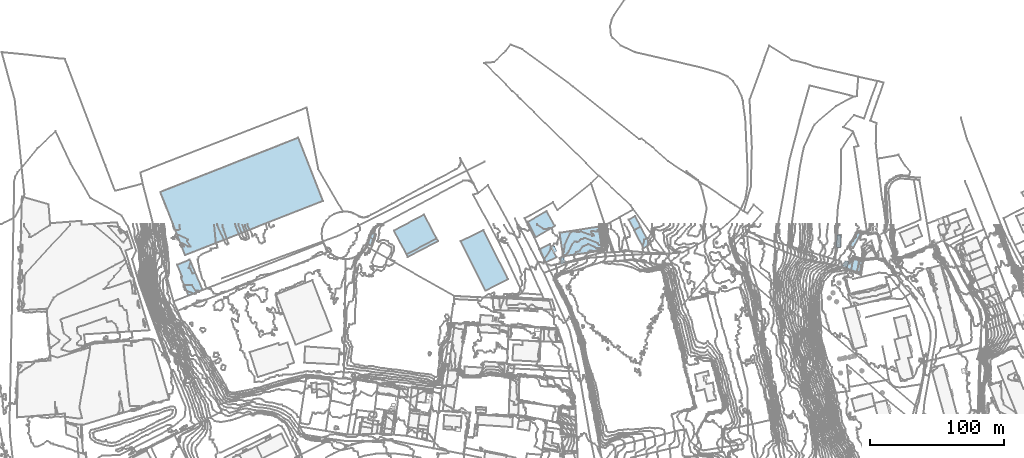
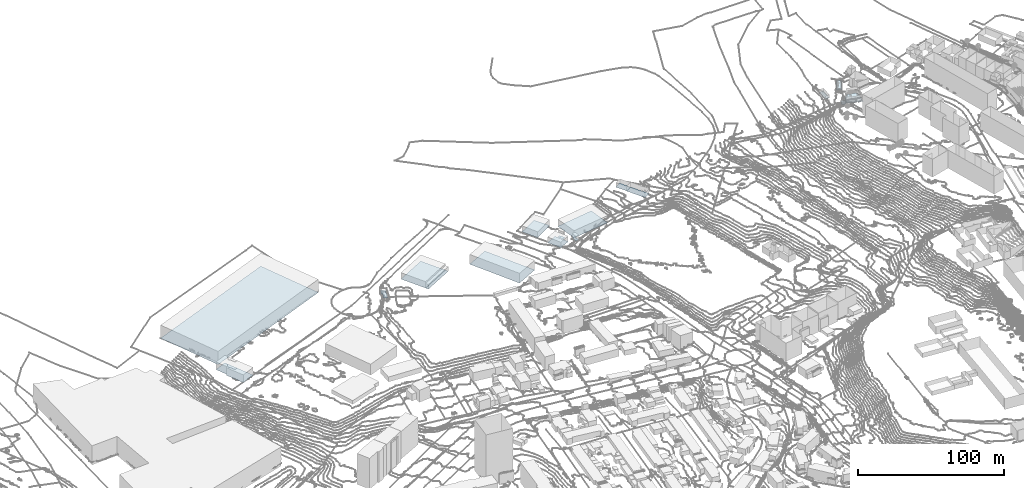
# Not in any storey, part 23 of 419: 18 footings.
"""IFC2X3 model written with IfcOpenShell, lengths in metres."""

from ifc_helpers import new_model, si_unit, frame, origin_with_axes, place, context, subcontext, project, faceted_brep, element, save


model = new_model("IFC2X3")

# Units and contexts
model_context = context("Model", 3, precision=1e-05, world=origin_with_axes())
body_context = subcontext(model_context, "Body", "Model", "MODEL_VIEW")
ifc_project = project(units=[si_unit("AREAUNIT", "SQUARE_METRE"), si_unit("LENGTHUNIT", "METRE")], contexts=[model_context])

# Footings
footing_1_placement = place(None, frame((662.4920204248, 1027.9976909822, 61.445799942), z_axis=(0.0, 0.0, 1.0), x_axis=(1.0, 0.0, 0.0)))
element("IfcFooting", 1, at=footing_1_placement, Name="Sol 0", PredefinedType="STRIP_FOOTING", context=body_context, shape_type="Brep", body=[
    faceted_brep([(0.0, 0.0, 0.0), (4.7999999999, 2.6000000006, 0.0), (12.0, -10.5, 0.0), (7.1, -13.3999999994, 0.0)], [[[0, 1, 2]], [[2, 3, 0]]]),
])
footing_2_placement = place(None, frame((600.8920204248, 1015.5976909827, 52.0179985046), z_axis=(0.0, 0.0, 1.0), x_axis=(1.0, 0.0, 0.0)))
element("IfcFooting", 2, at=footing_2_placement, Name="Sol 0", PredefinedType="STRIP_FOOTING", context=body_context, shape_type="Brep", body=[
    faceted_brep([(3.8999999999, -3.2000000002, 0.0), (1.8999999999, -4.2999999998, 0.0), (0.0, 0.0, 0.0), (2.0, 0.7000000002, 0.0)], [[[0, 1, 2]], [[2, 3, 0]]]),
])
footing_3_placement = place(None, frame((817.6920204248, 1001.4976909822, 95.6800018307), z_axis=(0.0, 0.0, 1.0), x_axis=(1.0, 0.0, 0.0)))
element("IfcFooting", 3, at=footing_3_placement, Name="Sol 0", PredefinedType="STRIP_FOOTING", context=body_context, shape_type="Brep", body=[
    faceted_brep([(3.1, -1.1999999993, 0.0), (0.0, 0.0, 0.0), (1.9, 3.8000000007, 0.0), (4.6, 3.0, 0.0)], [[[0, 1, 2]], [[2, 3, 0]]]),
])
footing_4_placement = place(None, frame((607.8920204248, 1007.5976909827, 53.5594993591), z_axis=(0.0, 0.0, 1.0), x_axis=(1.0, 0.0, 0.0)))
element("IfcFooting", 4, at=footing_4_placement, Name="Sol 0", PredefinedType="STRIP_FOOTING", context=body_context, shape_type="Brep", body=[
    faceted_brep([(2.7, -3.9000000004, 0.0), (0.2, -4.5, 0.0), (0.0, 0.0, 0.0), (2.2, 0.2000000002, 0.0)], [[[0, 1, 2]], [[2, 3, 0]]]),
])
footing_5_placement = place(None, frame((492.8920204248, 1009.9976909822, 50.3296007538), z_axis=(0.0, 0.0, 1.0), x_axis=(1.0, 0.0, 0.0)))
element("IfcFooting", 5, at=footing_5_placement, Name="Sol 0", PredefinedType="STRIP_FOOTING", context=body_context, shape_type="Brep", body=[
    faceted_brep([(1.0, -2.0, 0.0), (0.0, 0.0, 0.0), (22.5, 11.8000000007, 0.0), (23.6, 9.8000000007, 0.0)], [[[0, 1, 2]], [[2, 3, 0]]]),
])
footing_6_placement = place(None, frame((322.0920204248, 1002.1976909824, 46.5999984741), z_axis=(0.0, 0.0, 1.0), x_axis=(1.0, 0.0, 0.0)))
element("IfcFooting", 6, at=footing_6_placement, Name="Sol 0", PredefinedType="STRIP_FOOTING", context=body_context, shape_type="Brep", body=[
    faceted_brep([(11.4, -6.5999999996, 0.0), (13.5, -5.7999999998, 0.0), (18.9, -18.5, 0.0), (8.6, -2.2999999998, 0.0), (9.8, -3.0, 0.0), (9.4, 3.9000000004, 0.0), (10.1, 2.2000000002, 0.0), (3.7, -8.7999999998, 0.0), (0.0, 0.0, 0.0), (3.1, -10.2000000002, 0.0), (3.0, -9.2999999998, 0.0), (8.5, -22.8999999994, 0.0)], [[[0, 1, 2]], [[3, 4, 0]], [[5, 6, 3]], [[7, 8, 5]], [[9, 10, 7]], [[2, 11, 9]], [[3, 0, 2]], [[7, 5, 3]], [[2, 9, 7]], [[7, 3, 2]]]),
])
footing_7_placement = place(None, frame((330.6920204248, 999.8976909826, 46.5999984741), z_axis=(0.0, 0.0, 1.0), x_axis=(1.0, 0.0, 0.0)))
element("IfcFooting", 7, at=footing_7_placement, Name="Sol 0", PredefinedType="STRIP_FOOTING", context=body_context, shape_type="Brep", body=[
    faceted_brep([(1.2000000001, -0.7000000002, 0.0), (0.0, 0.0, 0.0), (1.5, 4.5, 0.0), (4.9, -3.5, 0.0), (2.8, -4.2999999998, 0.0)], [[[0, 1, 2]], [[3, 4, 0]], [[0, 2, 3]]]),
])
footing_8_placement = place(None, frame((483.5920204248, 1027.7976909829, 50.3763996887), z_axis=(0.0, 0.0, 1.0), x_axis=(1.0, 0.0, 0.0)))
element("IfcFooting", 8, at=footing_8_placement, Name="Sol 0", PredefinedType="STRIP_FOOTING", context=body_context, shape_type="Brep", body=[
    faceted_brep([(31.8, -6.0, 0.0), (9.3, -17.8000000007, 0.0), (0.0, 0.0, 0.0), (22.5, 11.7999999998, 0.0)], [[[0, 1, 2]], [[2, 3, 0]]]),
])
footing_9_placement = place(None, frame((583.3920204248, 1034.1976909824, 51.1739997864), z_axis=(0.0, 0.0, 1.0), x_axis=(1.0, 0.0, 0.0)))
element("IfcFooting", 9, at=footing_9_placement, Name="Sol 0", PredefinedType="STRIP_FOOTING", context=body_context, shape_type="Brep", body=[
    faceted_brep([(20.1, -3.0, 0.0), (5.7, -11.5, 0.0), (0.0, 0.0, 0.0), (13.8999999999, 8.0, 0.0)], [[[0, 1, 2]], [[2, 3, 0]]]),
])
footing_10_placement = place(None, frame((822.4920204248, 1016.5976909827, 96.8140013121), z_axis=(0.0, 0.0, 1.0), x_axis=(1.0, 0.0, 0.0)))
element("IfcFooting", 10, at=footing_10_placement, Name="Sol 0", PredefinedType="STRIP_FOOTING", context=body_context, shape_type="Brep", body=[
    faceted_brep([(0.0, 0.0, 0.0), (5.9, 10.0999999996, 0.0), (8.7, 8.5, 0.0), (3.2, -1.7999999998, 0.0)], [[[0, 1, 2]], [[2, 3, 0]]]),
])
footing_11_placement = place(None, frame((820.5920204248, 999.5976909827, 96.9673973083), z_axis=(0.0, 0.0, 1.0), x_axis=(1.0, 0.0, 0.0)))
element("IfcFooting", 11, at=footing_11_placement, Name="Sol 0", PredefinedType="STRIP_FOOTING", context=body_context, shape_type="Brep", body=[
    faceted_brep([(11.0, -4.1000000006, 0.0), (0.0, 0.0, 0.0), (1.7, 4.8999999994, 0.0), (4.9, 9.0, 0.0), (12.6, 6.7999999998, 0.0)], [[[0, 1, 2]], [[3, 4, 0]], [[0, 2, 3]]]),
])
footing_12_placement = place(None, frame((606.9920204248, 1025.9976909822, 52.4879997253), z_axis=(0.0, 0.0, 1.0), x_axis=(1.0, 0.0, 0.0)))
element("IfcFooting", 12, at=footing_12_placement, Name="Sol 0", PredefinedType="STRIP_FOOTING", context=body_context, shape_type="Brep", body=[
    faceted_brep([(2.7, -17.5, 0.0), (0.0, 0.0, 0.0), (29.1, 4.6000000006, 0.0), (31.7, -13.2999999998, 0.0)], [[[0, 1, 2]], [[2, 3, 0]]]),
])
footing_13_placement = place(None, frame((309.5920204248, 1056.4976909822, 44.3300018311), z_axis=(0.0, 0.0, 1.0), x_axis=(1.0, 0.0, 0.0)))
element("IfcFooting", 13, at=footing_13_placement, Name="Sol 0", PredefinedType="STRIP_FOOTING", context=body_context, shape_type="Brep", body=[
    faceted_brep([(18.4, -47.0999999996, 0.0), (0.0, 0.0, 0.0), (102.7, 40.3000000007, 0.0), (121.2, -6.6999999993, 0.0)], [[[0, 1, 2]], [[2, 3, 0]]]),
])
footing_14_placement = place(None, frame((591.7920204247, 1013.6976909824, 51.6282003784), z_axis=(0.0, 0.0, 1.0), x_axis=(1.0, 0.0, 0.0)))
element("IfcFooting", 14, at=footing_14_placement, Name="Sol 0", PredefinedType="STRIP_FOOTING", context=body_context, shape_type="Brep", body=[
    faceted_brep([(12.8, -5.8999999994, 0.0), (4.7000000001, -9.7999999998, 0.0), (0.0, 0.0, 0.0), (8.1000000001, 3.9000000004, 0.0)], [[[0, 1, 2]], [[2, 3, 0]]]),
])
footing_15_placement = place(None, frame((533.3920204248, 1019.6976909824, 50.3425988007), z_axis=(0.0, 0.0, 1.0), x_axis=(1.0, 0.0, 0.0)))
element("IfcFooting", 15, at=footing_15_placement, Name="Sol 0", PredefinedType="STRIP_FOOTING", context=body_context, shape_type="Brep", body=[
    faceted_brep([(18.2999999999, -36.7999999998, 0.0), (0.0, 0.0, 0.0), (16.8999999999, 8.4000000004, 0.0), (35.2, -28.2999999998, 0.0)], [[[0, 1, 2]], [[2, 3, 0]]]),
])
footing_16_placement = place(None, frame((658.4920204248, 1035.6976909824, 61.3829990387), z_axis=(0.0, 0.0, 1.0), x_axis=(1.0, 0.0, 0.0)))
element("IfcFooting", 16, at=footing_16_placement, Name="Sol 0", PredefinedType="STRIP_FOOTING", context=body_context, shape_type="Brep", body=[
    faceted_brep([(4.7999999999, 2.7999999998, 0.0), (8.7999999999, -5.0999999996, 0.0), (4.2999999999, -7.5, 0.0), (0.0, 0.0, 0.0)], [[[0, 1, 2]], [[2, 3, 0]]]),
])
footing_17_placement = place(None, frame((463.8920204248, 1017.2976909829, 47.6540006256), z_axis=(0.0, 0.0, 1.0), x_axis=(1.0, 0.0, 0.0)))
element("IfcFooting", 17, at=footing_17_placement, Name="Sol 0", PredefinedType="STRIP_FOOTING", context=body_context, shape_type="Brep", body=[
    faceted_brep([(1.2, 5.2999999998, 0.0), (2.5, 8.7999999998, 0.0), (5.7, 7.5999999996, 0.0), (2.6, -0.9000000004, 0.0), (0.0, 0.0, 0.0), (1.7999999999, 5.0999999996, 0.0)], [[[0, 1, 2]], [[3, 4, 5]], [[5, 0, 2]], [[2, 3, 5]]]),
])
footing_18_placement = place(None, frame((813.0920204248, 1015.3976909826, 93.5100021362), z_axis=(0.0, 0.0, 1.0), x_axis=(1.0, 0.0, 0.0)))
element("IfcFooting", 18, at=footing_18_placement, Name="Sol 0", PredefinedType="STRIP_FOOTING", context=body_context, shape_type="Brep", body=[
    faceted_brep([(0.0, 0.0, 0.0), (0.4, 9.0999999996, 0.0), (3.5, 8.7999999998, 0.0), (3.0, -0.2000000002, 0.0)], [[[0, 1, 2]], [[2, 3, 0]]]),
])

save(model, "model.ifc")
